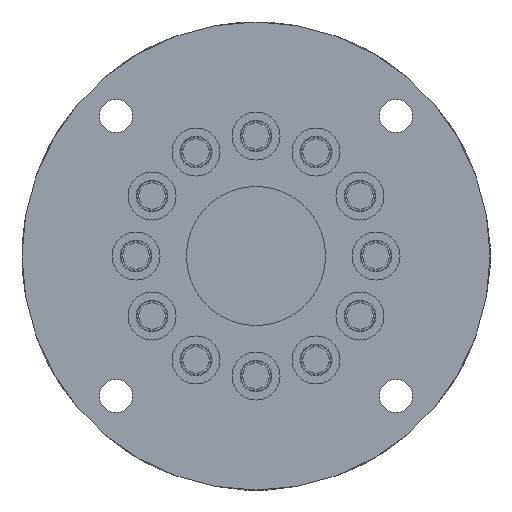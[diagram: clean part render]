
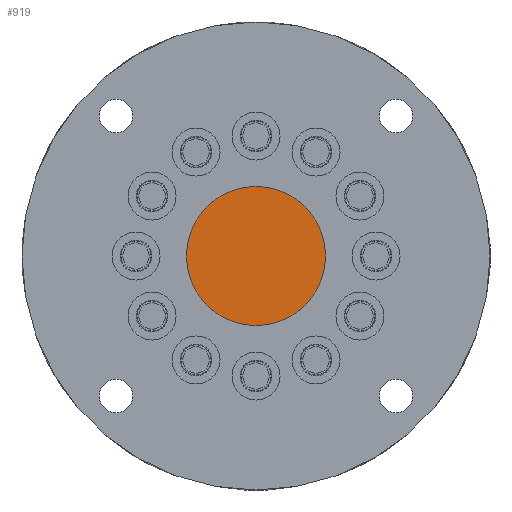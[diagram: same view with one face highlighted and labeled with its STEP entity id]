
A CAD part, front view. The second image highlights one B-rep face of the part: STEP entity #919.
In plain terms, the highlighted planar face has unit normal (0, -1, 0).
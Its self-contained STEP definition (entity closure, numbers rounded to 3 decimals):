
#872=CARTESIAN_POINT('',(0.0,0.0,29.0));
#873=VERTEX_POINT('',#872);
#881=CARTESIAN_POINT('',(0.0,0.0,-29.0));
#882=VERTEX_POINT('',#881);
#889=CARTESIAN_POINT('',(0.0,0.0,0.0));
#890=DIRECTION('',(0.0,-1.0,0.0));
#891=DIRECTION('',(0.0,0.0,-1.0));
#892=AXIS2_PLACEMENT_3D('',#889,#890,#891);
#893=CIRCLE('',#892,29.0);
#894=EDGE_CURVE('no 2776',#873,#882,#893,.T.);
#904=CARTESIAN_POINT('',(0.0,0.0,0.0));
#905=DIRECTION('',(0.0,-1.0,0.0));
#906=DIRECTION('',(0.0,0.0,-1.0));
#907=AXIS2_PLACEMENT_3D('',#904,#905,#906);
#908=CIRCLE('',#907,29.0);
#909=EDGE_CURVE('no 2783',#882,#873,#908,.T.);
#910=ORIENTED_EDGE('',*,*,#909,.T.);
#911=ORIENTED_EDGE('',*,*,#894,.T.);
#912=EDGE_LOOP('',(#910,#911));
#913=FACE_OUTER_BOUND('',#912,.T.);
#914=CARTESIAN_POINT('',(0.0,0.0,0.0));
#915=DIRECTION('',(0.0,1.0,0.0));
#916=DIRECTION('',(0.0,0.0,1.0));
#917=AXIS2_PLACEMENT_3D('',#914,#915,#916);
#918=PLANE('',#917);
#919=ADVANCED_FACE('no 2778',(#913),#918,.F.);
